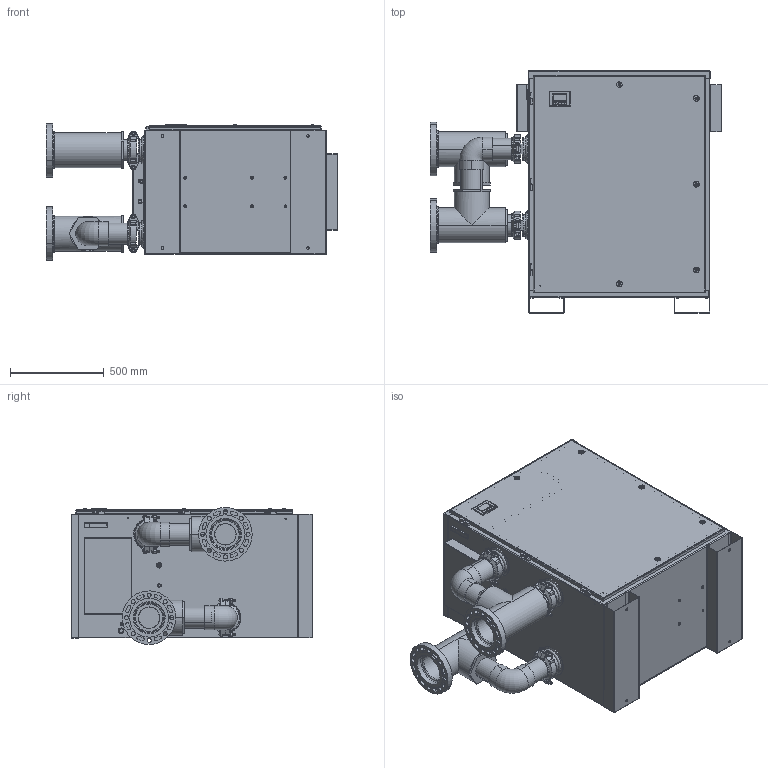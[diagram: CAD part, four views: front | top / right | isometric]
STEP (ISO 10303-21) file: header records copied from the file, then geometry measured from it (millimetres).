
FILE_DESCRIPTION (( 'STEP AP214' ), '1' );
FILE_NAME ('AOP-PRO-500.STEP', '2019-02-28T15:27:47', ( '' ), ( '' ), 'SwSTEP 2.0', 'SolidWorks 2017', '' );
FILE_SCHEMA (( 'AUTOMOTIVE_DESIGN' ));
Length unit declared in the file: inch
Products named in the file (1): AOP-PRO-500
Bounding box: 1555.15 x 1289.05 x 729.99 mm (x, y, z)
Surface area: 11955472.5 mm2 (no closed solid volume)
Topology: 0 solids, 739 shells, 2627 faces, 11408 edges, 9302 vertices
Faces by surface type: plane 916, cylinder 840, bspline 385, torus 207, cone 190, sphere 89
Entity records: 180787 total; most frequent: CARTESIAN_POINT 58425, DIRECTION 18123, ORIENTED_EDGE 14295, EDGE_CURVE 11322, VERTEX_POINT 9268, AXIS2_PLACEMENT_3D 6666, LINE 4791, VECTOR 4791
